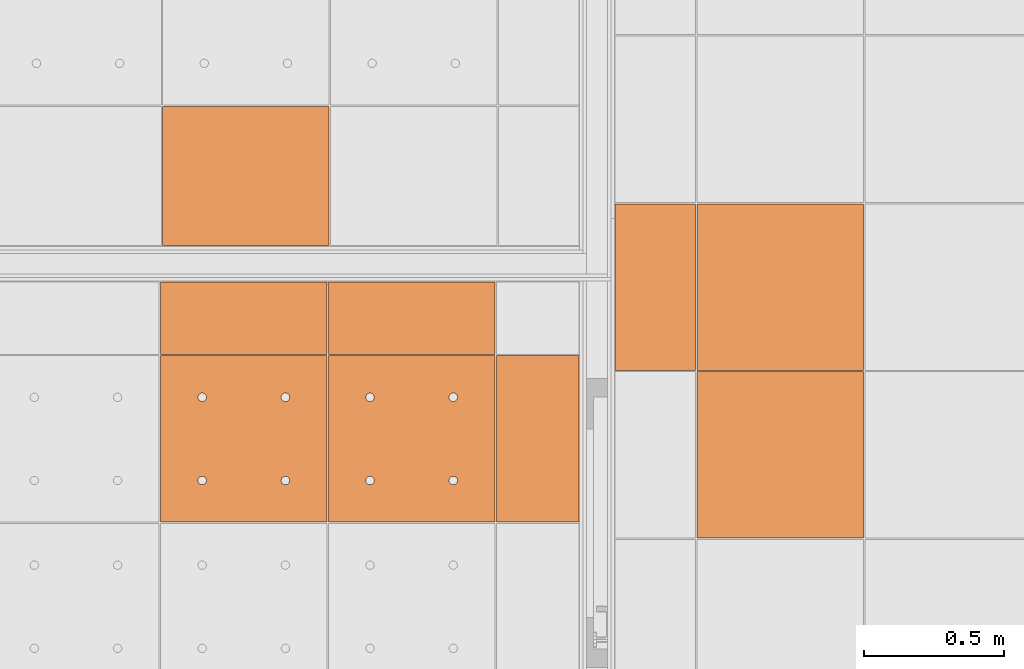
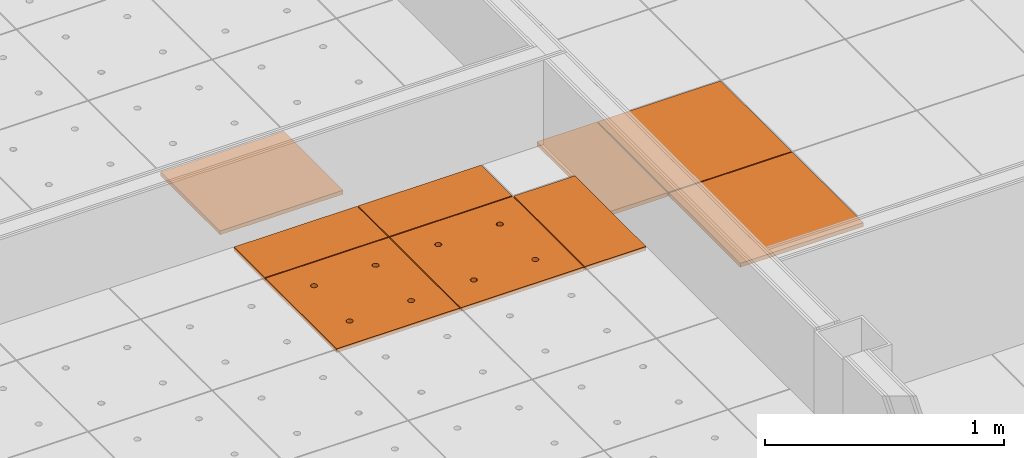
# One storey, part 279 of 338: 9 proxies, 3 elements without a shape of their own.
"""IFC2X3 building model written with IfcOpenShell, lengths in millimetres."""

from ifc_helpers import new_model, entity, si_unit, converted_unit, derived_unit, money_unit, direction, frame, origin_with_axes, place, context, subcontext, project, spatial, faceted_brep, source, transform, mapped, material, type_object, type_shapes, element, aggregate, save


model = new_model("IFC2X3")

# Units and contexts
model_context = context("Model", 3, precision=0.01, world=origin_with_axes(), true_north=direction((0.0, 1.0)))
plan_context = context("Plan", 3, precision=0.01, world=origin_with_axes(), true_north=direction((0.0, 1.0)))
body_context = subcontext(model_context, "Body", "Model", "MODEL_VIEW")
ifc_project = project(units=[si_unit("LENGTHUNIT", "METRE", prefix="MILLI"), si_unit("AREAUNIT", "SQUARE_METRE"), si_unit("VOLUMEUNIT", "CUBIC_METRE"), converted_unit("PLANEANGLEUNIT", "DEGREE", entity("IfcPlaneAngleMeasure", 0.0174532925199), si_unit("PLANEANGLEUNIT", "RADIAN"), dimensions=[0, 0, 0, 0, 0, 0, 0]), money_unit("EUR"), converted_unit("TIMEUNIT", "Year", entity("IfcTimeMeasure", 31556926.0), si_unit("TIMEUNIT", "SECOND"), dimensions=[0, 0, 1, 0, 0, 0, 0]), si_unit("MASSUNIT", "GRAM", prefix="KILO"), si_unit("THERMODYNAMICTEMPERATUREUNIT", "DEGREE_CELSIUS"), si_unit("LUMINOUSINTENSITYUNIT", "LUMEN"), si_unit("ENERGYUNIT", "JOULE", prefix="MEGA"), derived_unit("THERMALCONDUCTANCEUNIT", [(si_unit("POWERUNIT", "WATT"), 1), (si_unit("LENGTHUNIT", "METRE"), -1), (si_unit("THERMODYNAMICTEMPERATUREUNIT", "KELVIN"), -1)]), derived_unit("SPECIFICHEATCAPACITYUNIT", [(si_unit("ENERGYUNIT", "JOULE"), 1), (si_unit("MASSUNIT", "GRAM", prefix="KILO"), -1), (si_unit("THERMODYNAMICTEMPERATUREUNIT", "KELVIN"), -1)]), derived_unit("MASSDENSITYUNIT", [(si_unit("MASSUNIT", "GRAM", prefix="KILO"), 1), (si_unit("VOLUMEUNIT", "CUBIC_METRE"), -1)])], contexts=[model_context, plan_context])

# Site, building, storey
site_placement = place(None, origin_with_axes())
site = spatial("IfcSite", under=ifc_project, at=site_placement, Name="Fortuinstraat Woensdrecht", CompositionType="ELEMENT")
building_placement = place(site_placement, origin_with_axes())
building = spatial("IfcBuilding", under=site, at=building_placement, Name="IKC Fortuna", CompositionType="ELEMENT")
storey_placement = place(building_placement, origin_with_axes())
storey = spatial("IfcBuildingStorey", under=building, at=storey_placement, Name="00 begane grond", CompositionType="ELEMENT", Elevation=0.0)

# Covering, proxy
covering_type = type_object("IfcCoveringType", Name="Curtain Wall Type", PredefinedType="CEILING")
covering_1_placement = place(storey_placement, frame((15059.4416165, 34009.703821, 3210.0), z_axis=(0.0, 0.0, 1.0), x_axis=(1.0, 0.0, 0.0)))
covering_1 = element("IfcCovering", 1, at=covering_1_placement, inside=storey, type_object=covering_type, Name="45_Plafondafwerking_P01", PredefinedType="CEILING")
ifc_material = material(Name="Gipsplaat")
building_element_proxy_type_1 = type_object("IfcBuildingElementProxyType", Name="Main Panel 600 x 503 x 20", PredefinedType="NOTDEFINED")
shared_shape_1 = source(origin_with_axes(), body_context, "Body", "Brep", [
    faceted_brep([(2.49999999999, 2.49999752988, -10.0), (597.5, 2.49999752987, -10.0), (597.5, 2.49999752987, 10.0), (2.49999999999, 2.49999752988, 10.0), (2.5, 500.092828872, -10.0), (597.5, 500.092828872, -10.0), (597.5, 500.092828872, 10.0), (2.5, 500.092828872, 10.0)], [[[0, 1, 2, 3]], [[0, 4, 5, 1]], [[1, 5, 6, 2]], [[3, 2, 6, 7]], [[4, 0, 3, 7]], [[5, 4, 7, 6]]]),
])
type_shapes(building_element_proxy_type_1, [shared_shape_1])
proxy_1_placement = place(covering_1_placement, frame((4200.0, -7151.29641444, 0.0), z_axis=(0.0, 0.0, 1.0), x_axis=(1.0, 0.0, 0.0)))
proxy_1 = element("IfcBuildingElementProxy", 2, at=proxy_1_placement, type_object=building_element_proxy_type_1, material=ifc_material, Name="__Panel-D", context=body_context, shape_type="MappedRepresentation", body=[
    mapped(shared_shape_1, transform((300.0, 251.296414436, 0.0), x_axis=(-1.0, 0.0, 0.0), y_axis=(0.0, -1.0, 0.0), z_axis=(0.0, 0.0, 1.0))),
])
aggregate(covering_1, [proxy_1])

# Covering, proxies
covering_2_placement = place(storey_placement, frame((21169.4446171, 27661.0834994, 3010.0), z_axis=(0.0, 0.0, 1.0), x_axis=(1.0, 0.0, 0.0)))
covering_2 = element("IfcCovering", 3, at=covering_2_placement, inside=storey, type_object=covering_type, Name="45_Plafondafwerking_P04", PredefinedType="CEILING")
building_element_proxy_type_2 = type_object("IfcBuildingElementProxyType", Name="Distinct Panel 600 x 600 x 20", PredefinedType="NOTDEFINED")
shared_shape_2 = source(origin_with_axes(), body_context, "Body", "Brep", [
    faceted_brep([(-2.49999999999, 2.5, -10.0), (-2.49999999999, 2.5, 10.0), (-597.5, 2.49999999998, 10.0), (-597.5, 2.49999999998, -10.0), (-2.50000000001, 597.5, -10.0), (-2.50000000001, 597.5, 10.0), (-597.5, 597.5, 10.0), (-597.5, 597.5, -10.0)], [[[0, 1, 2, 3]], [[4, 5, 1, 0]], [[1, 5, 6, 2]], [[3, 2, 6, 7]], [[0, 3, 7, 4]], [[7, 6, 5, 4]]]),
])
type_shapes(building_element_proxy_type_2, [shared_shape_2])
proxy_2_placement = place(covering_2_placement, frame((0.0, -1800.0, 0.0), z_axis=(0.0, 0.0, 1.0), x_axis=(1.0, 0.0, 0.0)))
proxy_2 = element("IfcBuildingElementProxy", 4, at=proxy_2_placement, type_object=building_element_proxy_type_2, material=ifc_material, Name="__Panel-D", context=body_context, shape_type="MappedRepresentation", body=[
    mapped(shared_shape_2, transform((-300.0, 300.0, 0.0), x_axis=(-1.0, 0.0, 0.0), y_axis=(0.0, -1.0, 0.0), z_axis=(0.0, 0.0, 1.0))),
])
proxy_3_placement = place(covering_2_placement, frame((0.0, -1200.0, 0.0), z_axis=(0.0, 0.0, 1.0), x_axis=(1.0, 0.0, 0.0)))
proxy_3 = element("IfcBuildingElementProxy", 5, at=proxy_3_placement, type_object=building_element_proxy_type_2, material=ifc_material, Name="__Panel-D", context=body_context, shape_type="MappedRepresentation", body=[
    mapped(shared_shape_2, transform((-300.0, 300.0, 0.0), x_axis=(-1.0, 0.0, 0.0), y_axis=(0.0, -1.0, 0.0), z_axis=(0.0, 0.0, 1.0))),
])
building_element_proxy_type_3 = type_object("IfcBuildingElementProxyType", Name="Distinct Panel 293 x 600 x 20", PredefinedType="NOTDEFINED")
shared_shape_3 = source(origin_with_axes(), body_context, "Body", "Brep", [
    faceted_brep([(-309.99037086, 2.5, -10.0), (-309.99037086, 2.5, 10.0), (-597.5, 2.49999999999, 10.0), (-597.5, 2.49999999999, -10.0), (-309.99037086, 597.5, -10.0), (-309.99037086, 597.5, 10.0), (-597.5, 597.5, 10.0), (-597.5, 597.5, -10.0)], [[[0, 1, 2, 3]], [[4, 5, 1, 0]], [[1, 5, 6, 2]], [[3, 2, 6, 7]], [[0, 3, 7, 4]], [[7, 6, 5, 4]]]),
])
type_shapes(building_element_proxy_type_3, [shared_shape_3])
proxy_4_placement = place(covering_2_placement, frame((-446.254815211, -1200.0, 0.0), z_axis=(0.0, 0.0, 1.0), x_axis=(1.0, 0.0, 0.0)))
proxy_4 = element("IfcBuildingElementProxy", 6, at=proxy_4_placement, type_object=building_element_proxy_type_3, material=ifc_material, Name="__Panel-D", context=body_context, shape_type="MappedRepresentation", body=[
    mapped(shared_shape_3, transform((-453.745184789, 300.0, 0.0), x_axis=(-1.0, 0.0, 0.0), y_axis=(0.0, -1.0, 0.0), z_axis=(0.0, 0.0, 1.0))),
])
aggregate(covering_2, [proxy_4, proxy_2, proxy_3])

covering_3_placement = place(storey_placement, frame((17451.9845996, 24118.5314449, 3210.0), z_axis=(0.0, 0.0, 1.0), x_axis=(1.0, 0.0, 0.0)))
covering_3 = element("IfcCovering", 7, at=covering_3_placement, inside=storey, type_object=covering_type, Name="45_Plafondafwerking_P01", PredefinedType="CEILING")
building_element_proxy_type_4 = type_object("IfcBuildingElementProxyType", Name="Main Panel 600 x 600 x 20", PredefinedType="NOTDEFINED")
shared_shape_4 = source(origin_with_axes(), body_context, "Body", "Brep", [
    faceted_brep([(2.49999999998, 2.49999999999, -10.0), (300.0, 2.49999999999, -10.0), (300.0, 2.49999999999, 10.0), (2.49999999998, 2.49999999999, 10.0), (2.49999999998, 300.0, -10.0), (2.49999999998, 597.5, -10.0), (300.0, 597.5, -10.0), (597.5, 597.5, -10.0), (597.5, 300.0, -10.0), (597.5, 2.49999999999, -10.0), (166.25, 450.06232995, -10.0), (165.79423259, 452.64711538, -10.0), (164.896546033, 455.11348892, -10.0), (163.58421608, 457.38651108, -10.0), (161.897117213, 459.39711721, -10.0), (159.886511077, 461.08421608, -10.0), (157.613488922, 462.39654603, -10.0), (155.147115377, 463.29423259, -10.0), (152.562329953, 463.75, -10.0), (149.937670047, 463.75, -10.0), (147.352884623, 463.29423259, -10.0), (144.886511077, 462.39654603, -10.0), (142.613488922, 461.08421608, -10.0), (140.602882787, 459.39711721, -10.0), (138.91578392, 457.38651108, -10.0), (137.603453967, 455.11348892, -10.0), (136.705767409, 452.64711538, -10.0), (136.25, 450.06232995, -10.0), (136.25, 448.75, -10.0), (136.25, 447.43767005, -10.0), (136.705767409, 444.85288462, -10.0), (137.603453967, 442.38651108, -10.0), (138.91578392, 440.11348892, -10.0), (140.602882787, 438.10288279, -10.0), (142.613488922, 436.41578392, -10.0), (144.886511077, 435.10345397, -10.0), (147.352884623, 434.20576741, -10.0), (149.937670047, 433.75, -10.0), (152.562329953, 433.75, -10.0), (155.147115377, 434.20576741, -10.0), (157.613488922, 435.10345397, -10.0), (159.886511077, 436.41578392, -10.0), (161.897117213, 438.10288279, -10.0), (163.58421608, 440.11348892, -10.0), (164.896546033, 442.38651108, -10.0), (165.79423259, 444.85288462, -10.0), (166.25, 447.43767005, -10.0), (463.75, 450.06232995, -10.0), (463.29423259, 452.64711538, -10.0), (462.396546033, 455.11348892, -10.0), (461.08421608, 457.38651108, -10.0), (459.397117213, 459.39711721, -10.0), (457.386511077, 461.08421608, -10.0), (455.113488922, 462.39654603, -10.0), (452.647115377, 463.29423259, -10.0), (450.062329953, 463.75, -10.0), (447.437670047, 463.75, -10.0), (444.852884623, 463.29423259, -10.0), (442.386511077, 462.39654603, -10.0), (440.113488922, 461.08421608, -10.0), (438.102882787, 459.39711721, -10.0), (436.41578392, 457.38651108, -10.0), (435.103453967, 455.11348892, -10.0), (434.205767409, 452.64711538, -10.0), (433.75, 450.06232995, -10.0), (433.75, 448.75, -10.0), (433.75, 447.43767005, -10.0), (434.205767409, 444.85288462, -10.0), (435.103453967, 442.38651108, -10.0), (436.41578392, 440.11348892, -10.0), (438.102882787, 438.10288279, -10.0), (440.113488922, 436.41578392, -10.0), (442.386511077, 435.10345397, -10.0), (444.852884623, 434.20576741, -10.0), (447.437670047, 433.75, -10.0), (450.062329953, 433.75, -10.0), (452.647115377, 434.20576741, -10.0), (455.113488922, 435.10345397, -10.0), (457.386511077, 436.41578392, -10.0), (459.397117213, 438.10288279, -10.0), (461.08421608, 440.11348892, -10.0), (462.396546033, 442.38651108, -10.0), (463.29423259, 444.85288462, -10.0), (463.75, 447.43767005, -10.0), (463.75, 152.56232995, -10.0), (463.29423259, 155.14711538, -10.0), (462.396546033, 157.61348892, -10.0), (461.08421608, 159.88651108, -10.0), (459.397117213, 161.89711721, -10.0), (457.386511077, 163.58421608, -10.0), (455.113488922, 164.89654603, -10.0), (452.647115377, 165.79423259, -10.0), (450.062329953, 166.25, -10.0), (447.437670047, 166.25, -10.0), (444.852884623, 165.79423259, -10.0), (442.386511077, 164.89654603, -10.0), (440.113488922, 163.58421608, -10.0), (438.102882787, 161.89711721, -10.0), (436.41578392, 159.88651108, -10.0), (435.103453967, 157.61348892, -10.0), (434.205767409, 155.14711538, -10.0), (433.75, 152.56232995, -10.0), (433.75, 151.25, -10.0), (433.75, 149.93767005, -10.0), (434.205767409, 147.35288462, -10.0), (435.103453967, 144.88651108, -10.0), (436.41578392, 142.61348892, -10.0), (438.102882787, 140.60288279, -10.0), (440.113488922, 138.91578392, -10.0), (442.386511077, 137.60345397, -10.0), (444.852884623, 136.70576741, -10.0), (447.437670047, 136.25, -10.0), (450.062329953, 136.25, -10.0), (452.647115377, 136.70576741, -10.0), (455.113488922, 137.60345397, -10.0), (457.386511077, 138.91578392, -10.0), (459.397117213, 140.60288279, -10.0), (461.08421608, 142.61348892, -10.0), (462.396546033, 144.88651108, -10.0), (463.29423259, 147.35288462, -10.0), (463.75, 149.93767005, -10.0), (166.25, 152.56232995, -10.0), (165.79423259, 155.14711538, -10.0), (164.896546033, 157.61348892, -10.0), (163.58421608, 159.88651108, -10.0), (161.897117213, 161.89711721, -10.0), (159.886511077, 163.58421608, -10.0), (157.613488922, 164.89654603, -10.0), (155.147115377, 165.79423259, -10.0), (152.562329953, 166.25, -10.0), (149.937670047, 166.25, -10.0), (147.352884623, 165.79423259, -10.0), (144.886511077, 164.89654603, -10.0), (142.613488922, 163.58421608, -10.0), (140.602882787, 161.89711721, -10.0), (138.91578392, 159.88651108, -10.0), (137.603453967, 157.61348892, -10.0), (136.705767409, 155.14711538, -10.0), (136.25, 152.56232995, -10.0), (136.25, 151.25, -10.0), (136.25, 149.93767005, -10.0), (136.705767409, 147.35288462, -10.0), (137.603453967, 144.88651108, -10.0), (138.91578392, 142.61348892, -10.0), (140.602882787, 140.60288279, -10.0), (142.613488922, 138.91578392, -10.0), (144.886511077, 137.60345397, -10.0), (147.352884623, 136.70576741, -10.0), (149.937670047, 136.25, -10.0), (152.562329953, 136.25, -10.0), (155.147115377, 136.70576741, -10.0), (157.613488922, 137.60345397, -10.0), (159.886511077, 138.91578392, -10.0), (161.897117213, 140.60288279, -10.0), (163.58421608, 142.61348892, -10.0), (164.896546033, 144.88651108, -10.0), (165.79423259, 147.35288462, -10.0), (166.25, 149.93767005, -10.0), (597.5, 2.49999999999, 10.0), (597.5, 300.0, 10.0), (597.5, 597.5, 10.0), (300.0, 597.5, 10.0), (2.49999999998, 597.5, 10.0), (2.49999999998, 300.0, 10.0), (166.25, 450.06232995, 10.0), (166.25, 447.43767005, 10.0), (165.79423259, 444.85288462, 10.0), (164.896546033, 442.38651108, 10.0), (163.58421608, 440.11348892, 10.0), (161.897117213, 438.10288279, 10.0), (159.886511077, 436.41578392, 10.0), (157.613488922, 435.10345397, 10.0), (155.147115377, 434.20576741, 10.0), (152.562329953, 433.75, 10.0), (149.937670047, 433.75, 10.0), (147.352884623, 434.20576741, 10.0), (144.886511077, 435.10345397, 10.0), (142.613488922, 436.41578392, 10.0), (140.602882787, 438.10288279, 10.0), (138.91578392, 440.11348892, 10.0), (137.603453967, 442.38651108, 10.0), (136.705767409, 444.85288462, 10.0), (136.25, 447.43767005, 10.0), (136.25, 448.75, 10.0), (136.25, 450.06232995, 10.0), (136.705767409, 452.64711538, 10.0), (137.603453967, 455.11348892, 10.0), (138.91578392, 457.38651108, 10.0), (140.602882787, 459.39711721, 10.0), (142.613488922, 461.08421608, 10.0), (144.886511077, 462.39654603, 10.0), (147.352884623, 463.29423259, 10.0), (149.937670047, 463.75, 10.0), (152.562329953, 463.75, 10.0), (155.147115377, 463.29423259, 10.0), (157.613488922, 462.39654603, 10.0), (159.886511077, 461.08421608, 10.0), (161.897117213, 459.39711721, 10.0), (163.58421608, 457.38651108, 10.0), (164.896546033, 455.11348892, 10.0), (165.79423259, 452.64711538, 10.0), (463.75, 450.06232995, 10.0), (463.75, 447.43767005, 10.0), (463.29423259, 444.85288462, 10.0), (462.396546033, 442.38651108, 10.0), (461.08421608, 440.11348892, 10.0), (459.397117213, 438.10288279, 10.0), (457.386511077, 436.41578392, 10.0), (455.113488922, 435.10345397, 10.0), (452.647115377, 434.20576741, 10.0), (450.062329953, 433.75, 10.0), (447.437670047, 433.75, 10.0), (444.852884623, 434.20576741, 10.0), (442.386511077, 435.10345397, 10.0), (440.113488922, 436.41578392, 10.0), (438.102882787, 438.10288279, 10.0), (436.41578392, 440.11348892, 10.0), (435.103453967, 442.38651108, 10.0), (434.205767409, 444.85288462, 10.0), (433.75, 447.43767005, 10.0), (433.75, 448.75, 10.0), (433.75, 450.06232995, 10.0), (434.205767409, 452.64711538, 10.0), (435.103453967, 455.11348892, 10.0), (436.41578392, 457.38651108, 10.0), (438.102882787, 459.39711721, 10.0), (440.113488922, 461.08421608, 10.0), (442.386511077, 462.39654603, 10.0), (444.852884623, 463.29423259, 10.0), (447.437670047, 463.75, 10.0), (450.062329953, 463.75, 10.0), (452.647115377, 463.29423259, 10.0), (455.113488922, 462.39654603, 10.0), (457.386511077, 461.08421608, 10.0), (459.397117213, 459.39711721, 10.0), (461.08421608, 457.38651108, 10.0), (462.396546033, 455.11348892, 10.0), (463.29423259, 452.64711538, 10.0), (463.75, 152.56232995, 10.0), (463.75, 149.93767005, 10.0), (463.29423259, 147.35288462, 10.0), (462.396546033, 144.88651108, 10.0), (461.08421608, 142.61348892, 10.0), (459.397117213, 140.60288279, 10.0), (457.386511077, 138.91578392, 10.0), (455.113488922, 137.60345397, 10.0), (452.647115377, 136.70576741, 10.0), (450.062329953, 136.25, 10.0), (447.437670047, 136.25, 10.0), (444.852884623, 136.70576741, 10.0), (442.386511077, 137.60345397, 10.0), (440.113488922, 138.91578392, 10.0), (438.102882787, 140.60288279, 10.0), (436.41578392, 142.61348892, 10.0), (435.103453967, 144.88651108, 10.0), (434.205767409, 147.35288462, 10.0), (433.75, 149.93767005, 10.0), (433.75, 151.25, 10.0), (433.75, 152.56232995, 10.0), (434.205767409, 155.14711538, 10.0), (435.103453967, 157.61348892, 10.0), (436.41578392, 159.88651108, 10.0), (438.102882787, 161.89711721, 10.0), (440.113488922, 163.58421608, 10.0), (442.386511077, 164.89654603, 10.0), (444.852884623, 165.79423259, 10.0), (447.437670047, 166.25, 10.0), (450.062329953, 166.25, 10.0), (452.647115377, 165.79423259, 10.0), (455.113488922, 164.89654603, 10.0), (457.386511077, 163.58421608, 10.0), (459.397117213, 161.89711721, 10.0), (461.08421608, 159.88651108, 10.0), (462.396546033, 157.61348892, 10.0), (463.29423259, 155.14711538, 10.0), (166.25, 152.56232995, 10.0), (166.25, 149.93767005, 10.0), (165.79423259, 147.35288462, 10.0), (164.896546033, 144.88651108, 10.0), (163.58421608, 142.61348892, 10.0), (161.897117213, 140.60288279, 10.0), (159.886511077, 138.91578392, 10.0), (157.613488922, 137.60345397, 10.0), (155.147115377, 136.70576741, 10.0), (152.562329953, 136.25, 10.0), (149.937670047, 136.25, 10.0), (147.352884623, 136.70576741, 10.0), (144.886511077, 137.60345397, 10.0), (142.613488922, 138.91578392, 10.0), (140.602882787, 140.60288279, 10.0), (138.91578392, 142.61348892, 10.0), (137.603453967, 144.88651108, 10.0), (136.705767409, 147.35288462, 10.0), (136.25, 149.93767005, 10.0), (136.25, 151.25, 10.0), (136.25, 152.56232995, 10.0), (136.705767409, 155.14711538, 10.0), (137.603453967, 157.61348892, 10.0), (138.91578392, 159.88651108, 10.0), (140.602882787, 161.89711721, 10.0), (142.613488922, 163.58421608, 10.0), (144.886511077, 164.89654603, 10.0), (147.352884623, 165.79423259, 10.0), (149.937670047, 166.25, 10.0), (152.562329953, 166.25, 10.0), (155.147115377, 165.79423259, 10.0), (157.613488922, 164.89654603, 10.0), (159.886511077, 163.58421608, 10.0), (161.897117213, 161.89711721, 10.0), (163.58421608, 159.88651108, 10.0), (164.896546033, 157.61348892, 10.0), (165.79423259, 155.14711538, 10.0)], [[[0, 1, 2, 3]], [[0, 4, 5, 6, 7, 8, 9, 1], [10, 11, 12, 13, 14, 15, 16, 17, 18, 19, 20, 21, 22, 23, 24, 25, 26, 27, 28, 29, 30, 31, 32, 33, 34, 35, 36, 37, 38, 39, 40, 41, 42, 43, 44, 45, 46], [47, 48, 49, 50, 51, 52, 53, 54, 55, 56, 57, 58, 59, 60, 61, 62, 63, 64, 65, 66, 67, 68, 69, 70, 71, 72, 73, 74, 75, 76, 77, 78, 79, 80, 81, 82, 83], [84, 85, 86, 87, 88, 89, 90, 91, 92, 93, 94, 95, 96, 97, 98, 99, 100, 101, 102, 103, 104, 105, 106, 107, 108, 109, 110, 111, 112, 113, 114, 115, 116, 117, 118, 119, 120], [121, 122, 123, 124, 125, 126, 127, 128, 129, 130, 131, 132, 133, 134, 135, 136, 137, 138, 139, 140, 141, 142, 143, 144, 145, 146, 147, 148, 149, 150, 151, 152, 153, 154, 155, 156, 157]], [[1, 9, 158, 2]], [[3, 2, 158, 159, 160, 161, 162, 163], [164, 165, 166, 167, 168, 169, 170, 171, 172, 173, 174, 175, 176, 177, 178, 179, 180, 181, 182, 183, 184, 185, 186, 187, 188, 189, 190, 191, 192, 193, 194, 195, 196, 197, 198, 199, 200], [201, 202, 203, 204, 205, 206, 207, 208, 209, 210, 211, 212, 213, 214, 215, 216, 217, 218, 219, 220, 221, 222, 223, 224, 225, 226, 227, 228, 229, 230, 231, 232, 233, 234, 235, 236, 237], [238, 239, 240, 241, 242, 243, 244, 245, 246, 247, 248, 249, 250, 251, 252, 253, 254, 255, 256, 257, 258, 259, 260, 261, 262, 263, 264, 265, 266, 267, 268, 269, 270, 271, 272, 273, 274], [275, 276, 277, 278, 279, 280, 281, 282, 283, 284, 285, 286, 287, 288, 289, 290, 291, 292, 293, 294, 295, 296, 297, 298, 299, 300, 301, 302, 303, 304, 305, 306, 307, 308, 309, 310, 311]], [[4, 0, 3, 163]], [[5, 4, 163, 162]], [[6, 5, 162, 161]], [[7, 6, 161, 160]], [[8, 7, 160, 159]], [[9, 8, 159, 158]], [[11, 10, 164, 200]], [[12, 11, 200, 199]], [[13, 12, 199, 198]], [[14, 13, 198, 197]], [[15, 14, 197, 196]], [[16, 15, 196, 195]], [[17, 16, 195, 194]], [[18, 17, 194, 193]], [[19, 18, 193, 192]], [[20, 19, 192, 191]], [[21, 20, 191, 190]], [[22, 21, 190, 189]], [[23, 22, 189, 188]], [[24, 23, 188, 187]], [[25, 24, 187, 186]], [[26, 25, 186, 185]], [[27, 26, 185, 184]], [[28, 27, 184, 183]], [[29, 28, 183, 182]], [[30, 29, 182, 181]], [[31, 30, 181, 180]], [[32, 31, 180, 179]], [[33, 32, 179, 178]], [[34, 33, 178, 177]], [[35, 34, 177, 176]], [[36, 35, 176, 175]], [[37, 36, 175, 174]], [[38, 37, 174, 173]], [[39, 38, 173, 172]], [[40, 39, 172, 171]], [[41, 40, 171, 170]], [[42, 41, 170, 169]], [[43, 42, 169, 168]], [[44, 43, 168, 167]], [[45, 44, 167, 166]], [[46, 45, 166, 165]], [[10, 46, 165, 164]], [[48, 47, 201, 237]], [[49, 48, 237, 236]], [[50, 49, 236, 235]], [[51, 50, 235, 234]], [[52, 51, 234, 233]], [[53, 52, 233, 232]], [[54, 53, 232, 231]], [[55, 54, 231, 230]], [[56, 55, 230, 229]], [[57, 56, 229, 228]], [[58, 57, 228, 227]], [[59, 58, 227, 226]], [[60, 59, 226, 225]], [[61, 60, 225, 224]], [[62, 61, 224, 223]], [[63, 62, 223, 222]], [[64, 63, 222, 221]], [[65, 64, 221, 220]], [[66, 65, 220, 219]], [[67, 66, 219, 218]], [[68, 67, 218, 217]], [[69, 68, 217, 216]], [[70, 69, 216, 215]], [[71, 70, 215, 214]], [[72, 71, 214, 213]], [[73, 72, 213, 212]], [[74, 73, 212, 211]], [[75, 74, 211, 210]], [[76, 75, 210, 209]], [[77, 76, 209, 208]], [[78, 77, 208, 207]], [[79, 78, 207, 206]], [[80, 79, 206, 205]], [[81, 80, 205, 204]], [[82, 81, 204, 203]], [[83, 82, 203, 202]], [[47, 83, 202, 201]], [[85, 84, 238, 274]], [[86, 85, 274, 273]], [[87, 86, 273, 272]], [[88, 87, 272, 271]], [[89, 88, 271, 270]], [[90, 89, 270, 269]], [[91, 90, 269, 268]], [[92, 91, 268, 267]], [[93, 92, 267, 266]], [[94, 93, 266, 265]], [[95, 94, 265, 264]], [[96, 95, 264, 263]], [[97, 96, 263, 262]], [[98, 97, 262, 261]], [[99, 98, 261, 260]], [[100, 99, 260, 259]], [[101, 100, 259, 258]], [[102, 101, 258, 257]], [[103, 102, 257, 256]], [[104, 103, 256, 255]], [[105, 104, 255, 254]], [[106, 105, 254, 253]], [[107, 106, 253, 252]], [[108, 107, 252, 251]], [[109, 108, 251, 250]], [[110, 109, 250, 249]], [[111, 110, 249, 248]], [[112, 111, 248, 247]], [[113, 112, 247, 246]], [[114, 113, 246, 245]], [[115, 114, 245, 244]], [[116, 115, 244, 243]], [[117, 116, 243, 242]], [[118, 117, 242, 241]], [[119, 118, 241, 240]], [[120, 119, 240, 239]], [[84, 120, 239, 238]], [[122, 121, 275, 311]], [[123, 122, 311, 310]], [[124, 123, 310, 309]], [[125, 124, 309, 308]], [[126, 125, 308, 307]], [[127, 126, 307, 306]], [[128, 127, 306, 305]], [[129, 128, 305, 304]], [[130, 129, 304, 303]], [[131, 130, 303, 302]], [[132, 131, 302, 301]], [[133, 132, 301, 300]], [[134, 133, 300, 299]], [[135, 134, 299, 298]], [[136, 135, 298, 297]], [[137, 136, 297, 296]], [[138, 137, 296, 295]], [[139, 138, 295, 294]], [[140, 139, 294, 293]], [[141, 140, 293, 292]], [[142, 141, 292, 291]], [[143, 142, 291, 290]], [[144, 143, 290, 289]], [[145, 144, 289, 288]], [[146, 145, 288, 287]], [[147, 146, 287, 286]], [[148, 147, 286, 285]], [[149, 148, 285, 284]], [[150, 149, 284, 283]], [[151, 150, 283, 282]], [[152, 151, 282, 281]], [[153, 152, 281, 280]], [[154, 153, 280, 279]], [[155, 154, 279, 278]], [[156, 155, 278, 277]], [[157, 156, 277, 276]], [[121, 157, 276, 275]]]),
])
type_shapes(building_element_proxy_type_4, [shared_shape_4])
proxy_5_placement = place(covering_3_placement, frame((1800.0, 1800.0, 0.0), z_axis=(0.0, 0.0, 1.0), x_axis=(1.0, 0.0, 0.0)))
proxy_5 = element("IfcBuildingElementProxy", 8, at=proxy_5_placement, type_object=building_element_proxy_type_4, material=ifc_material, Name="__600x618 Rockfon Krios", context=body_context, shape_type="MappedRepresentation", body=[
    mapped(shared_shape_4, transform((300.0, 300.0, 0.0), x_axis=(-1.0, 0.0, 0.0), y_axis=(0.0, -1.0, 0.0), z_axis=(0.0, 0.0, 1.0))),
])
proxy_6_placement = place(covering_3_placement, frame((2400.0, 1800.0, 0.0), z_axis=(0.0, 0.0, 1.0), x_axis=(1.0, 0.0, 0.0)))
proxy_6 = element("IfcBuildingElementProxy", 9, at=proxy_6_placement, type_object=building_element_proxy_type_4, material=ifc_material, Name="__600x625 Rockfon Krios", context=body_context, shape_type="MappedRepresentation", body=[
    mapped(shared_shape_4, transform((300.0, 300.0, 0.0), x_axis=(-1.0, 0.0, 0.0), y_axis=(0.0, -1.0, 0.0), z_axis=(0.0, 0.0, 1.0))),
])
building_element_proxy_type_5 = type_object("IfcBuildingElementProxyType", Name="300 x 600 x 20", PredefinedType="NOTDEFINED")
shared_shape_5 = source(origin_with_axes(), body_context, "Body", "Brep", [
    faceted_brep([(302.549576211, 2.5, -10.0), (597.5, 2.49999999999, -10.0), (597.5, 2.49999999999, 10.0), (302.549576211, 2.5, 10.0), (302.549576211, 597.5, -10.0), (597.5, 597.5, -10.0), (597.5, 597.5, 10.0), (302.549576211, 597.5, 10.0)], [[[0, 1, 2, 3]], [[0, 4, 5, 1]], [[1, 5, 6, 2]], [[3, 2, 6, 7]], [[4, 0, 3, 7]], [[5, 4, 7, 6]]]),
])
type_shapes(building_element_proxy_type_5, [shared_shape_5])
proxy_7_placement = place(covering_3_placement, frame((2849.97520939, 1800.0, 0.0), z_axis=(0.0, 0.0, 1.0), x_axis=(1.0, 0.0, 0.0)))
proxy_7 = element("IfcBuildingElementProxy", 10, at=proxy_7_placement, type_object=building_element_proxy_type_5, material=ifc_material, Name="__600x635 Rockfon Krios", context=body_context, shape_type="MappedRepresentation", body=[
    mapped(shared_shape_5, transform((450.024790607, 300.0, 0.0), x_axis=(-1.0, 0.0, 0.0), y_axis=(0.0, -1.0, 0.0), z_axis=(0.0, 0.0, 1.0))),
])
building_element_proxy_type_6 = type_object("IfcBuildingElementProxyType", Name="600 x 264 x 20", PredefinedType="NOTDEFINED")
shared_shape_6 = source(origin_with_axes(), body_context, "Body", "Brep", [
    faceted_brep([(2.5, 338.920338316, -10.0), (597.5, 338.920338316, -10.0), (597.5, 338.920338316, 10.0), (2.5, 338.920338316, 10.0), (2.50000000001, 597.5, -10.0), (597.5, 597.5, -10.0), (597.5, 597.5, 10.0), (2.50000000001, 597.5, 10.0)], [[[0, 1, 2, 3]], [[0, 4, 5, 1]], [[1, 5, 6, 2]], [[3, 2, 6, 7]], [[4, 0, 3, 7]], [[5, 4, 7, 6]]]),
])
type_shapes(building_element_proxy_type_6, [shared_shape_6])
proxy_8_placement = place(covering_3_placement, frame((1800.0, 2231.78982909, 0.0), z_axis=(0.0, 0.0, 1.0), x_axis=(1.0, 0.0, 0.0)))
proxy_8 = element("IfcBuildingElementProxy", 11, at=proxy_8_placement, type_object=building_element_proxy_type_6, material=ifc_material, Name="__600x771 Rockfon Krios", context=body_context, shape_type="MappedRepresentation", body=[
    mapped(shared_shape_6, transform((300.0, 468.210170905, 0.0), x_axis=(-1.0, 0.0, 0.0), y_axis=(0.0, -1.0, 0.0), z_axis=(0.0, 0.0, 1.0))),
])
proxy_9_placement = place(covering_3_placement, frame((2400.0, 2231.78982909, 0.0), z_axis=(0.0, 0.0, 1.0), x_axis=(1.0, 0.0, 0.0)))
proxy_9 = element("IfcBuildingElementProxy", 12, at=proxy_9_placement, type_object=building_element_proxy_type_6, material=ifc_material, Name="__600x778 Rockfon Krios", context=body_context, shape_type="MappedRepresentation", body=[
    mapped(shared_shape_6, transform((300.0, 468.210170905, 0.0), x_axis=(-1.0, 0.0, 0.0), y_axis=(0.0, -1.0, 0.0), z_axis=(0.0, 0.0, 1.0))),
])
aggregate(covering_3, [proxy_5, proxy_6, proxy_7, proxy_8, proxy_9])

save(model, "model.ifc")
